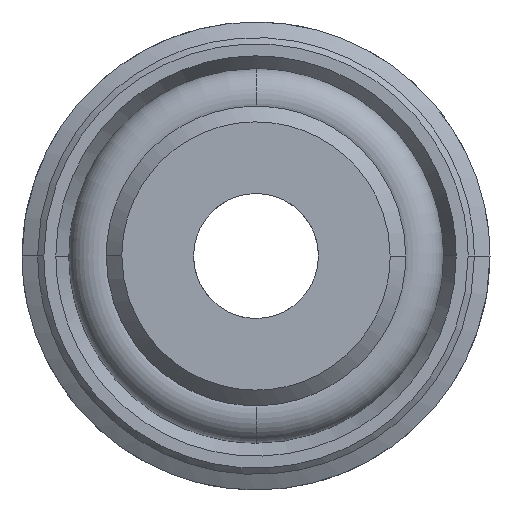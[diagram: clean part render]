
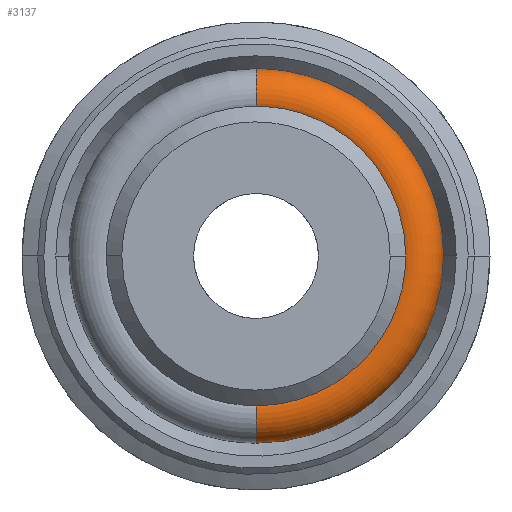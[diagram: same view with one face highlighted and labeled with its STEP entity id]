
A CAD part, front view. The second image highlights one B-rep face of the part: STEP entity #3137.
In plain terms, the highlighted toroidal (fillet/blend) face has major radius 5.05 mm and minor radius 0.95 mm.
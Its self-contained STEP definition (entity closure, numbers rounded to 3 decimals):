
#37 = CARTESIAN_POINT ( 'NONE',  ( 0., 5.45, 4.1 ) ) ;
#142 = CARTESIAN_POINT ( 'NONE',  ( 0.537, 5.45, 4.1 ) ) ;
#211 = CARTESIAN_POINT ( 'NONE',  ( 0., 6.4, -5.05 ) ) ;
#219 = CARTESIAN_POINT ( 'NONE',  ( 0., 5.45, -4.1 ) ) ;
#257 = CARTESIAN_POINT ( 'NONE',  ( 1.322, 6.4, -4.919 ) ) ;
#312 = DIRECTION ( 'NONE',  ( 0., 1., 0. ) ) ;
#350 = CARTESIAN_POINT ( 'NONE',  ( 1.073, 5.45, -3.993 ) ) ;
#408 = ORIENTED_EDGE ( 'NONE', *, *, #2002, .T. ) ;
#431 = ORIENTED_EDGE ( 'NONE', *, *, #954, .F. ) ;
#513 = CARTESIAN_POINT ( 'NONE',  ( 0., 6.4, 5.05 ) ) ;
#554 = DIRECTION ( 'NONE',  ( -1., 0., 0. ) ) ;
#557 = FACE_OUTER_BOUND ( 'NONE', #2268, .T. ) ;
#561 = VERTEX_POINT ( 'NONE', #37 ) ;
#615 = CARTESIAN_POINT ( 'NONE',  ( 2.52, 5.45, -3.279 ) ) ;
#795 = B_SPLINE_CURVE_WITH_KNOTS ( 'NONE', 3,
 ( #1357, #142, #1374, #2834, #2150, #1124, #1877, #2900, #1158, #1893, #2638, #901, #2118, #615, #2623, #350, #3147, #2868 ),
 .UNSPECIFIED., .F., .F.,
 ( 4, 2, 2, 2, 2, 2, 2, 2, 4 ),
 ( 0.75, 0.813, 0.875, 0.938, 1., 1.063, 1.125, 1.188, 1.25 ),
 .UNSPECIFIED. ) ;
#806 = CARTESIAN_POINT ( 'NONE',  ( 4.919, 6.4, -1.322 ) ) ;
#901 = CARTESIAN_POINT ( 'NONE',  ( 3.583, 5.45, -2.065 ) ) ;
#906 = CIRCLE ( 'NONE', #1428, 0.95 ) ;
#954 = EDGE_CURVE ( 'NONE', #561, #3117, #1309, .T. ) ;
#998 = CARTESIAN_POINT ( 'NONE',  ( 0.661, 6.4, -5.05 ) ) ;
#1018 = DIRECTION ( 'NONE',  ( 0., 0., 1. ) ) ;
#1124 = CARTESIAN_POINT ( 'NONE',  ( 3.279, 5.45, 2.52 ) ) ;
#1158 = CARTESIAN_POINT ( 'NONE',  ( 4.1, 5.45, 0.537 ) ) ;
#1169 = EDGE_CURVE ( 'NONE', #1569, #3117, #2330, .T. ) ;
#1292 = CARTESIAN_POINT ( 'NONE',  ( 2.543, 6.4, 4.413 ) ) ;
#1309 = CIRCLE ( 'NONE', #2451, 0.95 ) ;
#1330 = CARTESIAN_POINT ( 'NONE',  ( 4.413, 6.4, -2.543 ) ) ;
#1335 = CARTESIAN_POINT ( 'NONE',  ( 0., 6.4, 5.05 ) ) ;
#1348 = ORIENTED_EDGE ( 'NONE', *, *, #1734, .T. ) ;
#1357 = CARTESIAN_POINT ( 'NONE',  ( 0., 5.45, 4.1 ) ) ;
#1374 = CARTESIAN_POINT ( 'NONE',  ( 1.073, 5.45, 3.993 ) ) ;
#1417 = AXIS2_PLACEMENT_3D ( 'NONE', #2551, #312, #2048 ) ;
#1428 = AXIS2_PLACEMENT_3D ( 'NONE', #3125, #2615, #3058 ) ;
#1569 = VERTEX_POINT ( 'NONE', #211 ) ;
#1572 = CARTESIAN_POINT ( 'NONE',  ( 4.413, 6.4, 2.543 ) ) ;
#1734 = EDGE_CURVE ( 'NONE', #561, #3002, #795, .T. ) ;
#1877 = CARTESIAN_POINT ( 'NONE',  ( 3.583, 5.45, 2.065 ) ) ;
#1893 = CARTESIAN_POINT ( 'NONE',  ( 4.1, 5.45, -0.537 ) ) ;
#1988 = CARTESIAN_POINT ( 'NONE',  ( 2.543, 6.4, -4.413 ) ) ;
#2002 = EDGE_CURVE ( 'NONE', #3002, #1569, #906, .T. ) ;
#2003 = CARTESIAN_POINT ( 'NONE',  ( 4.038, 6.4, 3.103 ) ) ;
#2021 = CARTESIAN_POINT ( 'NONE',  ( 5.05, 6.4, 0.661 ) ) ;
#2040 = CARTESIAN_POINT ( 'NONE',  ( 0.661, 6.4, 5.05 ) ) ;
#2048 = DIRECTION ( 'NONE',  ( 0., 0., 1. ) ) ;
#2118 = CARTESIAN_POINT ( 'NONE',  ( 3.279, 5.45, -2.52 ) ) ;
#2150 = CARTESIAN_POINT ( 'NONE',  ( 2.52, 5.45, 3.279 ) ) ;
#2268 = EDGE_LOOP ( 'NONE', ( #1348, #408, #2982, #431 ) ) ;
#2320 = CARTESIAN_POINT ( 'NONE',  ( 3.103, 6.4, 4.038 ) ) ;
#2330 = B_SPLINE_CURVE_WITH_KNOTS ( 'NONE', 3,
 ( #2476, #998, #257, #1988, #2981, #3068, #1330, #806, #3016, #2021, #2733, #1572, #2003, #2320, #1292, #2785, #2040, #513 ),
 .UNSPECIFIED., .F., .F.,
 ( 4, 2, 2, 2, 2, 2, 2, 2, 4 ),
 ( 0., 0.062, 0.125, 0.187, 0.25, 0.313, 0.375, 0.437, 0.5 ),
 .UNSPECIFIED. ) ;
#2451 = AXIS2_PLACEMENT_3D ( 'NONE', #3055, #554, #1018 ) ;
#2476 = CARTESIAN_POINT ( 'NONE',  ( 0., 6.4, -5.05 ) ) ;
#2551 = CARTESIAN_POINT ( 'NONE',  ( 0., 5.45, 0. ) ) ;
#2615 = DIRECTION ( 'NONE',  ( 1., 0., 0. ) ) ;
#2623 = CARTESIAN_POINT ( 'NONE',  ( 2.065, 5.45, -3.583 ) ) ;
#2638 = CARTESIAN_POINT ( 'NONE',  ( 3.993, 5.45, -1.073 ) ) ;
#2733 = CARTESIAN_POINT ( 'NONE',  ( 4.919, 6.4, 1.322 ) ) ;
#2785 = CARTESIAN_POINT ( 'NONE',  ( 1.322, 6.4, 4.919 ) ) ;
#2810 = TOROIDAL_SURFACE ( 'NONE', #1417, 5.05, 0.95 ) ;
#2834 = CARTESIAN_POINT ( 'NONE',  ( 2.065, 5.45, 3.583 ) ) ;
#2868 = CARTESIAN_POINT ( 'NONE',  ( 0., 5.45, -4.1 ) ) ;
#2900 = CARTESIAN_POINT ( 'NONE',  ( 3.993, 5.45, 1.073 ) ) ;
#2981 = CARTESIAN_POINT ( 'NONE',  ( 3.103, 6.4, -4.038 ) ) ;
#2982 = ORIENTED_EDGE ( 'NONE', *, *, #1169, .T. ) ;
#3002 = VERTEX_POINT ( 'NONE', #219 ) ;
#3016 = CARTESIAN_POINT ( 'NONE',  ( 5.05, 6.4, -0.661 ) ) ;
#3055 = CARTESIAN_POINT ( 'NONE',  ( 0., 5.45, 5.05 ) ) ;
#3058 = DIRECTION ( 'NONE',  ( 0., 0., -1. ) ) ;
#3068 = CARTESIAN_POINT ( 'NONE',  ( 4.038, 6.4, -3.103 ) ) ;
#3117 = VERTEX_POINT ( 'NONE', #1335 ) ;
#3125 = CARTESIAN_POINT ( 'NONE',  ( 0., 5.45, -5.05 ) ) ;
#3137 = ADVANCED_FACE ( 'NONE', ( #557 ), #2810, .T. ) ;
#3147 = CARTESIAN_POINT ( 'NONE',  ( 0.537, 5.45, -4.1 ) ) ;
